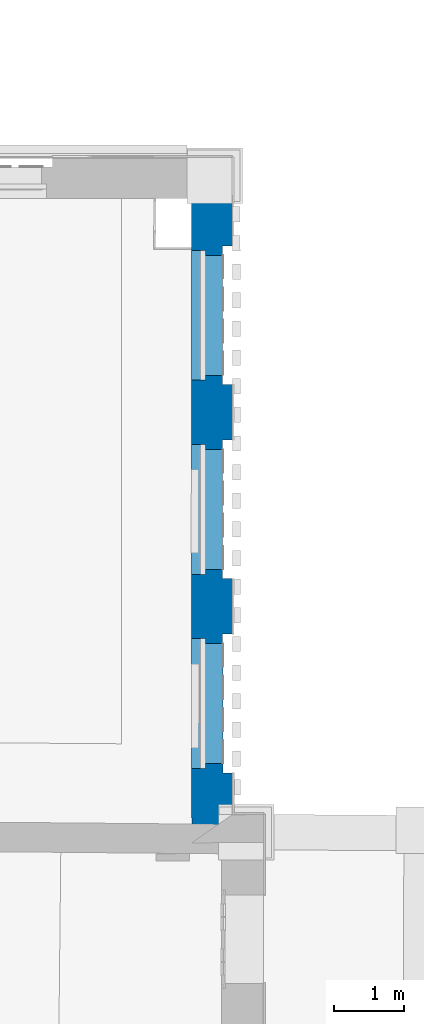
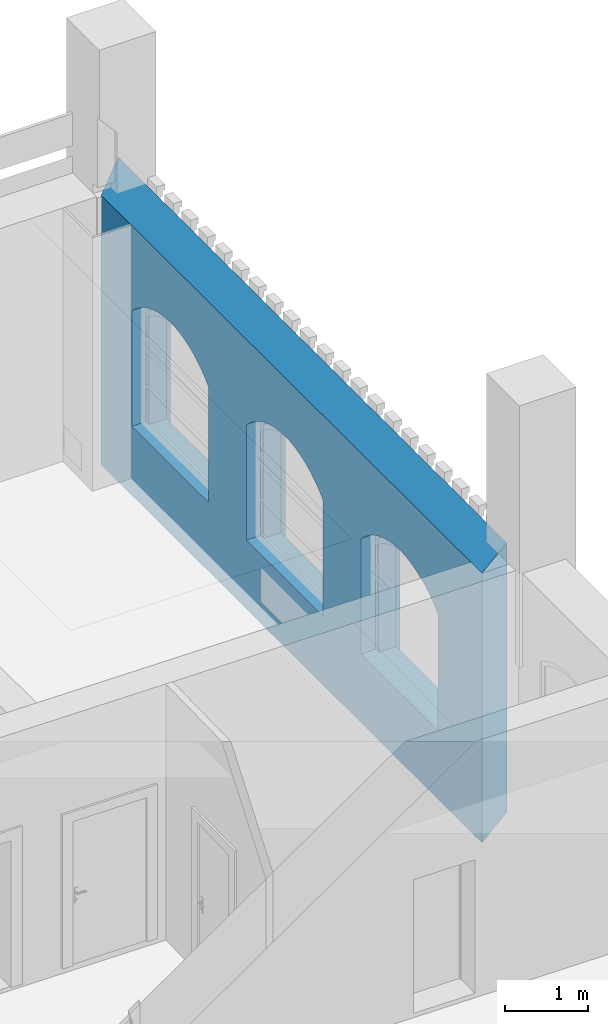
# One storey, part 37 of 90: 1 wall, 6 openings.
"""IFC2X3 building model written with IfcOpenShell, lengths in metres."""

import ifcopenshell
import ifcopenshell.guid

model = None  # the IFC model being written
_history = None  # IfcOwnerHistory: only IFC2X3 demands one
_inside = {}  # id of a spatial element -> (the spatial element, [elements in it])
_under = {}  # id of a project, library or spatial element -> (it, [spatial elements below it])
_declared = {}  # id of a project -> (the project, [libraries it declares])
_typed = {}  # id of a type object -> (the type object, [elements of that type])
_made_of = {}  # id of a material, layer set ... -> (it, [elements and type objects made of it])


def new_model(schema):
    """Start an empty IFC model of exactly this schema.

    Asked for "IFC4X3", IfcOpenShell would pick the latest addendum, in which some entities
    have other attributes; the version numbers below select the first issue.
    IFC2X3 requires an IfcOwnerHistory on every rooted entity: one is made here for all.
    """
    global model, _history
    if schema == "IFC4X3":
        model = ifcopenshell.file(schema_version=(4, 3, 0, 0))
    else:
        model = ifcopenshell.file(schema=schema)
    _inside.clear()
    _under.clear()
    _declared.clear()
    _typed.clear()
    _made_of.clear()
    _history = None
    if model.schema == "IFC2X3":
        org = make("IfcOrganization", Name="unknown")
        user = make(
            "IfcPersonAndOrganization",
            ThePerson=make("IfcPerson", FamilyName="unknown"),
            TheOrganization=org,
        )
        app = make(
            "IfcApplication",
            ApplicationDeveloper=org,
            Version="unknown",
            ApplicationFullName="unknown",
            ApplicationIdentifier="unknown",
        )
        _history = make(
            "IfcOwnerHistory",
            OwningUser=user,
            OwningApplication=app,
            ChangeAction="ADDED",
            CreationDate=0,
        )
    return model


def make(cls, **values):
    """One entity of the class cls with the attributes given. An attribute that is None is left unset."""
    return model.create_entity(
        cls, **{name: value for name, value in values.items() if value is not None}
    )


def entity(cls, *values):
    """Any entity or typed value of the class cls, its attributes in the order of the schema. None: left unset."""
    e = model.create_entity(cls)
    for i, value in enumerate(values):
        if value is not None:
            e[i] = value
    return e


def rooted(cls, **values):
    """An entity with a GlobalId (a new one), such as an element, a storey or a relation."""
    return make(cls, GlobalId=ifcopenshell.guid.new(), OwnerHistory=_history, **values)


def si_unit(unit_type, name, prefix=None):
    """IfcSIUnit, for example si_unit("LENGTHUNIT", "METRE", prefix="MILLI")."""
    return make("IfcSIUnit", UnitType=unit_type, Prefix=prefix, Name=name)


def converted_unit(unit_type, name, factor, base, dimensions=None, offset=None):
    """IfcConversionBasedUnit, such as the inch: factor (a typed value) times the base unit."""
    return make(
        "IfcConversionBasedUnit"
        if offset is None
        else "IfcConversionBasedUnitWithOffset",
        ConversionOffset=offset,
        Dimensions=None
        if dimensions is None
        else entity("IfcDimensionalExponents", *dimensions),
        UnitType=unit_type,
        Name=name,
        ConversionFactor=make(
            "IfcMeasureWithUnit", ValueComponent=factor, UnitComponent=base
        ),
    )


def derived_unit(unit_type, elements):
    """IfcDerivedUnit: a product of units, each with its exponent."""
    return make(
        "IfcDerivedUnit",
        Elements=[
            make("IfcDerivedUnitElement", Unit=unit, Exponent=power)
            for unit, power in elements
        ],
        UnitType=unit_type,
    )


def money_unit(currency):
    """IfcMonetaryUnit."""
    return make("IfcMonetaryUnit", Currency=currency)


def assignment(units):
    """IfcUnitAssignment: the units of a project."""
    return None if units is None else make("IfcUnitAssignment", Units=units)


def point(xyz):
    """IfcCartesianPoint."""
    return None if xyz is None else make("IfcCartesianPoint", Coordinates=xyz)


def direction(xyz):
    """IfcDirection."""
    return None if xyz is None else make("IfcDirection", DirectionRatios=xyz)


def frame(location, z_axis=None, x_axis=None):
    """IfcAxis2Placement3D, a coordinate frame: its origin and axes. An axis left out is left unset."""
    return make(
        "IfcAxis2Placement3D",
        Location=point(location),
        Axis=direction(z_axis),
        RefDirection=direction(x_axis),
    )


def origin_with_axes():
    """The frame at (0, 0, 0) with the z axis (0, 0, 1) and the x axis (1, 0, 0) written out."""
    return frame((0.0, 0.0, 0.0), z_axis=(0.0, 0.0, 1.0), x_axis=(1.0, 0.0, 0.0))


def place(relative_to, where):
    """IfcLocalPlacement: puts the frame where relative to a parent placement (None: the world)."""
    return make(
        "IfcLocalPlacement", PlacementRelTo=relative_to, RelativePlacement=where
    )


def context(
    kind, dimensions, precision=None, world=None, true_north=None, identifier=None
):
    """IfcGeometricRepresentationContext, for example the 3D "Model" context."""
    return make(
        "IfcGeometricRepresentationContext",
        ContextIdentifier=identifier,
        ContextType=kind,
        CoordinateSpaceDimension=dimensions,
        Precision=precision,
        WorldCoordinateSystem=world,
        TrueNorth=true_north,
    )


def subcontext(parent, identifier, kind, view, scale=None):
    """IfcGeometricRepresentationSubContext, for example "Body" below "Model"."""
    return make(
        "IfcGeometricRepresentationSubContext",
        ContextIdentifier=identifier,
        ContextType=kind,
        ParentContext=parent,
        TargetScale=scale,
        TargetView=view,
    )


def project(units=None, contexts=None):
    """IfcProject with its units and contexts."""
    return rooted(
        "IfcProject",
        Name="project",
        RepresentationContexts=contexts,
        UnitsInContext=assignment(units),
    )


def spatial(cls, under=None, at=None, **own):
    """A site, building, storey or space (cls), placed at a placement, below another one or the project."""
    s = rooted(cls, ObjectPlacement=at, **own)
    if under is not None:
        _under.setdefault(under.id(), (under, []))[1].append(s)
    return s


def polyline(points):
    """IfcPolyline through the points."""
    return make("IfcPolyline", Points=[point(p) for p in points])


def outline(outer, holes=None, kind="AREA"):
    """IfcArbitraryClosedProfileDef: a profile drawn as a closed curve; with holes, ...WithVoids."""
    if holes is None:
        return make("IfcArbitraryClosedProfileDef", ProfileType=kind, OuterCurve=outer)
    return make(
        "IfcArbitraryProfileDefWithVoids",
        ProfileType=kind,
        OuterCurve=outer,
        InnerCurves=holes,
    )


def extrude(swept, where, along, depth):
    """IfcExtrudedAreaSolid: the profile swept, set in the frame where, extruded along a direction by depth."""
    return make(
        "IfcExtrudedAreaSolid",
        SweptArea=swept,
        Position=where,
        ExtrudedDirection=direction(along),
        Depth=depth,
    )


def shape(context_of_items, identifier, shape_type, items):
    """IfcShapeRepresentation: the items that make up one representation, for example the "Body"."""
    return make(
        "IfcShapeRepresentation",
        ContextOfItems=context_of_items,
        RepresentationIdentifier=identifier,
        RepresentationType=shape_type,
        Items=items,
    )


def material(Name=None, Category=None):
    """IfcMaterial."""
    return make("IfcMaterial", Name=Name, Category=Category)


def layer(
    of_material, thickness, ventilated=None, Name=None, Category=None, Priority=None
):
    """IfcMaterialLayer: one layer of a wall or slab, of a material (None: an air gap)."""
    return make(
        "IfcMaterialLayer",
        Material=of_material,
        LayerThickness=thickness,
        IsVentilated=ventilated,
        Name=Name,
        Category=Category,
        Priority=Priority,
    )


def layer_set(layers, Name=None):
    """IfcMaterialLayerSet."""
    return make("IfcMaterialLayerSet", MaterialLayers=layers, LayerSetName=Name)


def layer_usage(for_layer_set, set_direction, sense, offset, extent=None):
    """IfcMaterialLayerSetUsage: how a layer set lies in its element."""
    return make(
        "IfcMaterialLayerSetUsage",
        ForLayerSet=for_layer_set,
        LayerSetDirection=set_direction,
        DirectionSense=sense,
        OffsetFromReferenceLine=offset,
        ReferenceExtent=extent,
    )


def made_of(thing, what):
    """Note that an element or type object is made of a material, layer set ...; save() writes the relation."""
    if what is not None:
        _made_of.setdefault(what.id(), (what, []))[1].append(thing)
    return thing


def type_object(cls, material=None, **own):
    """A type object (cls), such as IfcWallType, which elements share."""
    return made_of(rooted(cls, **own), material)


def element(
    cls,
    number,
    at=None,
    inside=None,
    cuts=None,
    type_object=None,
    material=None,
    context=None,
    identifier="Body",
    shape_type=None,
    held_by="IfcProductDefinitionShape",
    body=None,
    shapes=None,
    **own,
):
    """One element of the class cls, such as IfcWall. Its Tag is "e" and its number.

    at: its placement. inside: the storey or other place that contains it. cuts: it is an
    opening in that element (IfcRelVoidsElement). A single representation is given by context,
    identifier, shape_type and body (its items); several are given by shapes. held_by: the class
    of the entity that holds the representations. save() writes the other relations.
    """
    e = rooted(cls, Tag="e%d" % number, ObjectPlacement=at, **own)
    if body is not None:
        shapes = [shape(context, identifier, shape_type, body)]
    if shapes is not None:
        e.Representation = make(held_by, Representations=shapes)
    if inside is not None:
        _inside.setdefault(inside.id(), (inside, []))[1].append(e)
    if cuts is not None:
        rooted(
            "IfcRelVoidsElement", RelatingBuildingElement=cuts, RelatedOpeningElement=e
        )
    if type_object is not None:
        _typed.setdefault(type_object.id(), (type_object, []))[1].append(e)
    return made_of(e, material)


def aggregate(whole, parts):
    """IfcRelAggregates: a whole, such as a stair, and the parts it consists of."""
    return rooted("IfcRelAggregates", RelatingObject=whole, RelatedObjects=parts)


def save(model, path):
    """Write the relations noted so far, then the file.

    IfcRelAggregates (storeys below a building ...), IfcRelContainedInSpatialStructure (elements
    in a storey), IfcRelDefinesByType, IfcRelAssociatesMaterial and IfcRelDeclares: one each for
    every whole, place, type object, material and project.
    """
    for whole, parts in _under.values():
        aggregate(whole, parts)
    for where, things in _inside.values():
        rooted(
            "IfcRelContainedInSpatialStructure",
            RelatedElements=things,
            RelatingStructure=where,
        )
    for kind, things in _typed.values():
        rooted("IfcRelDefinesByType", RelatedObjects=things, RelatingType=kind)
    for what, things in _made_of.values():
        rooted("IfcRelAssociatesMaterial", RelatedObjects=things, RelatingMaterial=what)
    for by, libraries in _declared.values():
        rooted("IfcRelDeclares", RelatingContext=by, RelatedDefinitions=libraries)
    model.write(path)


model = new_model("IFC2X3")

# Units and contexts
model_context = context("Model", 3, precision=1e-05, world=origin_with_axes(), true_north=direction((0.0, 1.0)))
body_context = subcontext(model_context, "Body", "Model", "MODEL_VIEW")
ifc_project = project(units=[si_unit("LENGTHUNIT", "METRE"), si_unit("AREAUNIT", "SQUARE_METRE"), si_unit("VOLUMEUNIT", "CUBIC_METRE"), converted_unit("PLANEANGLEUNIT", "DEGREE", entity("IfcPlaneAngleMeasure", 0.0174532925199), si_unit("PLANEANGLEUNIT", "RADIAN"), dimensions=[0, 0, 0, 0, 0, 0, 0]), money_unit("EUR"), converted_unit("TIMEUNIT", "Year", entity("IfcTimeMeasure", 31556926.0), si_unit("TIMEUNIT", "SECOND"), dimensions=[0, 0, 1, 0, 0, 0, 0]), si_unit("MASSUNIT", "GRAM", prefix="KILO"), si_unit("THERMODYNAMICTEMPERATUREUNIT", "DEGREE_CELSIUS"), si_unit("LUMINOUSINTENSITYUNIT", "LUMEN"), si_unit("ENERGYUNIT", "JOULE", prefix="MEGA"), derived_unit("THERMALCONDUCTANCEUNIT", [(si_unit("POWERUNIT", "WATT"), 1), (si_unit("LENGTHUNIT", "METRE"), -1), (si_unit("THERMODYNAMICTEMPERATUREUNIT", "KELVIN"), -1)]), derived_unit("SPECIFICHEATCAPACITYUNIT", [(si_unit("ENERGYUNIT", "JOULE"), 1), (si_unit("MASSUNIT", "GRAM", prefix="KILO"), -1), (si_unit("THERMODYNAMICTEMPERATUREUNIT", "KELVIN"), -1)]), derived_unit("MASSDENSITYUNIT", [(si_unit("MASSUNIT", "GRAM", prefix="KILO"), 1), (si_unit("VOLUMEUNIT", "CUBIC_METRE"), -1)])], contexts=[model_context])

# Site, building, storey
site_placement = place(None, origin_with_axes())
site = spatial("IfcSite", under=ifc_project, at=site_placement, Name="Gelände", CompositionType="ELEMENT")
building_placement = place(site_placement, origin_with_axes())
building = spatial("IfcBuilding", under=site, at=building_placement, Name="Gebäude", CompositionType="ELEMENT")
storey_placement = place(building_placement, frame((0.0, 0.0, 3.7), z_axis=(0.0, 0.0, 1.0), x_axis=(1.0, 0.0, 0.0)))
storey = spatial("IfcBuildingStorey", under=building, at=storey_placement, Name="1.OBERGESCHOSS", CompositionType="ELEMENT", Elevation=3.7)

# Wall, openings
ifc_material = material(Name="05_ALLGEMEIN - TRAGENDE BAUTEILE")
ifc_layer = layer(ifc_material, 0.58, ventilated="UNKNOWN")
ifc_layer_set = layer_set([ifc_layer], Name="05_ALLGEMEIN - TRAGENDE BAUTEILE 0.58")
ifc_layer_usage = layer_usage(ifc_layer_set, "AXIS2", "NEGATIVE", 0.58)
wall_type = type_object("IfcWallType", Name="05_ALLGEMEIN - TRAGENDE BAUTEILE 580", PredefinedType="ELEMENTEDWALL")
wall_placement = place(storey_placement, frame((31.6770990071, 19.8019123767, -0.1), z_axis=(0.0, 0.0, 1.0), x_axis=(-0.000336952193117, 0.999999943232, 0.0)))
wall = element("IfcWallStandardCase", 1, at=wall_placement, inside=storey, type_object=wall_type, material=ifc_layer_usage, Name="Wand-038", ObjectType="ELEMENTEDWALL", context=body_context, shape_type="SweptSolid", body=[
    extrude(outline(polyline([(0.0, 0.0), (9.36638695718, 0.0), (8.7761534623, 0.58), (-0.402913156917, 0.58), (0.0, 0.0)])), origin_with_axes(), (0.0, 0.0, 1.0), 3.97),
])
opening_1_placement = place(wall_placement, frame((4.34905198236, 0.0, -3.21821433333), z_axis=(0.0, 0.0, 1.0), x_axis=(1.0, 0.0, 0.0)))
element("IfcOpeningElement", 2, at=opening_1_placement, cuts=wall, Name="Fenster-015", ObjectType="Recess", context=body_context, shape_type="SweptSolid", body=[
    extrude(outline(polyline([(-0.989000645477, 0.0), (-0.989000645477, -5.96400000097), (-0.80394028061, -6.12465277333), (-0.593267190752, -6.24984662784), (-0.363693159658, -6.33559306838), (-0.122532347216, -6.37916034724), (0.122532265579, -6.37916034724), (0.363693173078, -6.33559306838), (0.593267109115, -6.24984662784), (0.803940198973, -6.12465277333), (0.989000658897, -5.96400000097), (0.989001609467, -5.96390000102), (0.989000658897, 0.0), (-0.989000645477, 0.0)])), frame((0.0, 0.137560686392, 0.0), z_axis=(0.0, 1.0, 0.0), x_axis=(1.0, 0.0, 0.0)), (0.0, 0.0, -1.0), 0.717560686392),
])
opening_2_placement = place(wall_placement, frame((4.34810984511, 0.0, 1.01607766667), z_axis=(0.0, 0.0, 1.0), x_axis=(1.0, 0.0, 0.0)))
element("IfcOpeningElement", 3, at=opening_2_placement, cuts=wall, Name="Fenster-015", context=body_context, shape_type="SweptSolid", body=[
    extrude(outline(polyline([(-0.855, 0.0), (-0.855, -1.67146886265), (-0.767063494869, -1.75112612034), (-0.671745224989, -1.82178399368), (-0.569962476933, -1.88276251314), (-0.462694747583, -1.93347485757), (-0.350974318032, -1.9734330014), (-0.235876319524, -2.00225241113), (-0.118508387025, -2.01965574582), (0.0, -2.02547552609), (0.118508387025, -2.01965574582), (0.235876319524, -2.00225241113), (0.350974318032, -1.9734330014), (0.462694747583, -1.93347485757), (0.569962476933, -1.88276251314), (0.671745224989, -1.82178399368), (0.767063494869, -1.75112612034), (0.855, -1.67146886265), (0.855, 0.0), (-0.855, 0.0)])), frame((0.0, 0.382213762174, 0.0), z_axis=(0.0, 1.0, 0.0), x_axis=(1.0, 0.0, 0.0)), (0.0, 0.0, -1.0), 0.962213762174),
    extrude(outline(polyline([(0.925, 0.0), (0.925, 1.7), (0.831145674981, 1.78876544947), (0.728819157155, 1.86761481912), (0.619063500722, 1.93574436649), (0.502997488, 1.99245962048), (0.381804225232, 2.03718246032), (0.256719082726, 2.06945700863), (0.129017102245, 2.08895427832), (0.0, 2.09547552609), (-0.129017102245, 2.08895427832), (-0.256719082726, 2.06945700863), (-0.381804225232, 2.03718246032), (-0.502997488, 1.99245962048), (-0.619063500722, 1.93574436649), (-0.728819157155, 1.86761481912), (-0.831145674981, 1.78876544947), (-0.925, 1.7), (-0.925, 0.0), (0.925, 0.0)])), frame((0.0, 0.382213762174, 0.0), z_axis=(0.0, -1.0, 0.0), x_axis=(1.0, 0.0, 0.0)), (0.0, 0.0, -1.0), 0.777786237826),
])
opening_3_placement = place(wall_placement, frame((1.58251483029, 0.0, -3.21821433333), z_axis=(0.0, 0.0, 1.0), x_axis=(1.0, 0.0, 0.0)))
element("IfcOpeningElement", 4, at=opening_3_placement, cuts=wall, Name="Fenster-015", ObjectType="Recess", context=body_context, shape_type="SweptSolid", body=[
    extrude(outline(polyline([(-0.989000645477, 0.0), (-0.989000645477, -5.96400000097), (-0.80394028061, -6.12465277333), (-0.593267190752, -6.24984662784), (-0.363693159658, -6.33559306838), (-0.122532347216, -6.37916034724), (0.122532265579, -6.37916034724), (0.363693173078, -6.33559306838), (0.593267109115, -6.24984662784), (0.803940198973, -6.12465277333), (0.989000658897, -5.96400000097), (0.989001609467, -5.96390000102), (0.989000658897, 0.0), (-0.989000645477, 0.0)])), frame((0.0, 0.137560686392, 0.0), z_axis=(0.0, 1.0, 0.0), x_axis=(1.0, 0.0, 0.0)), (0.0, 0.0, -1.0), 0.717560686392),
])
opening_4_placement = place(wall_placement, frame((1.58157269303, 0.0, 1.01607766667), z_axis=(0.0, 0.0, 1.0), x_axis=(1.0, 0.0, 0.0)))
element("IfcOpeningElement", 5, at=opening_4_placement, cuts=wall, Name="Fenster-015", context=body_context, shape_type="SweptSolid", body=[
    extrude(outline(polyline([(-0.855, 0.0), (-0.855, -1.67146886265), (-0.767063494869, -1.75112612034), (-0.671745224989, -1.82178399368), (-0.569962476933, -1.88276251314), (-0.462694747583, -1.93347485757), (-0.350974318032, -1.9734330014), (-0.235876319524, -2.00225241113), (-0.118508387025, -2.01965574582), (0.0, -2.02547552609), (0.118508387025, -2.01965574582), (0.235876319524, -2.00225241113), (0.350974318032, -1.9734330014), (0.462694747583, -1.93347485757), (0.569962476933, -1.88276251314), (0.671745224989, -1.82178399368), (0.767063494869, -1.75112612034), (0.855, -1.67146886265), (0.855, 0.0), (-0.855, 0.0)])), frame((0.0, 0.382213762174, 0.0), z_axis=(0.0, 1.0, 0.0), x_axis=(1.0, 0.0, 0.0)), (0.0, 0.0, -1.0), 0.962213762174),
    extrude(outline(polyline([(0.925, 0.0), (0.925, 1.7), (0.831145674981, 1.78876544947), (0.728819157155, 1.86761481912), (0.619063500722, 1.93574436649), (0.502997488, 1.99245962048), (0.381804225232, 2.03718246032), (0.256719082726, 2.06945700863), (0.129017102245, 2.08895427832), (0.0, 2.09547552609), (-0.129017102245, 2.08895427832), (-0.256719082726, 2.06945700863), (-0.381804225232, 2.03718246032), (-0.502997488, 1.99245962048), (-0.619063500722, 1.93574436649), (-0.728819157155, 1.86761481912), (-0.831145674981, 1.78876544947), (-0.925, 1.7), (-0.925, 0.0), (0.925, 0.0)])), frame((0.0, 0.382213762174, 0.0), z_axis=(0.0, -1.0, 0.0), x_axis=(1.0, 0.0, 0.0)), (0.0, 0.0, -1.0), 0.777786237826),
])
opening_5_placement = place(wall_placement, frame((7.11401505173, 0.0, -3.21821433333), z_axis=(0.0, 0.0, 1.0), x_axis=(1.0, 0.0, 0.0)))
element("IfcOpeningElement", 6, at=opening_5_placement, cuts=wall, Name="Fenster-015", ObjectType="Recess", context=body_context, shape_type="SweptSolid", body=[
    extrude(outline(polyline([(-0.989000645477, 0.0), (-0.989000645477, -5.96400000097), (-0.80394028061, -6.12465277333), (-0.593267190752, -6.24984662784), (-0.363693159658, -6.33559306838), (-0.122532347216, -6.37916034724), (0.122532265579, -6.37916034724), (0.363693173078, -6.33559306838), (0.593267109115, -6.24984662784), (0.803940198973, -6.12465277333), (0.989000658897, -5.96400000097), (0.989001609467, -5.96390000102), (0.989000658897, 0.0), (-0.989000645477, 0.0)])), frame((0.0, 0.137560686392, 0.0), z_axis=(0.0, 1.0, 0.0), x_axis=(1.0, 0.0, 0.0)), (0.0, 0.0, -1.0), 0.717560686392),
])
opening_6_placement = place(wall_placement, frame((7.11307291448, 0.0, 1.01607766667), z_axis=(0.0, 0.0, 1.0), x_axis=(1.0, 0.0, 0.0)))
element("IfcOpeningElement", 7, at=opening_6_placement, cuts=wall, Name="Fenster-015", context=body_context, shape_type="SweptSolid", body=[
    extrude(outline(polyline([(-0.855, 0.0), (-0.855, -1.67146886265), (-0.767063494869, -1.75112612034), (-0.671745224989, -1.82178399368), (-0.569962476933, -1.88276251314), (-0.462694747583, -1.93347485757), (-0.350974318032, -1.9734330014), (-0.235876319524, -2.00225241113), (-0.118508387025, -2.01965574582), (0.0, -2.02547552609), (0.118508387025, -2.01965574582), (0.235876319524, -2.00225241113), (0.350974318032, -1.9734330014), (0.462694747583, -1.93347485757), (0.569962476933, -1.88276251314), (0.671745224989, -1.82178399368), (0.767063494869, -1.75112612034), (0.855, -1.67146886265), (0.855, 0.0), (-0.855, 0.0)])), frame((0.0, 0.382213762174, 0.0), z_axis=(0.0, 1.0, 0.0), x_axis=(1.0, 0.0, 0.0)), (0.0, 0.0, -1.0), 0.962213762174),
    extrude(outline(polyline([(0.925, 0.0), (0.925, 1.7), (0.831145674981, 1.78876544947), (0.728819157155, 1.86761481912), (0.619063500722, 1.93574436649), (0.502997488, 1.99245962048), (0.381804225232, 2.03718246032), (0.256719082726, 2.06945700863), (0.129017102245, 2.08895427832), (0.0, 2.09547552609), (-0.129017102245, 2.08895427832), (-0.256719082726, 2.06945700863), (-0.381804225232, 2.03718246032), (-0.502997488, 1.99245962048), (-0.619063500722, 1.93574436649), (-0.728819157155, 1.86761481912), (-0.831145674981, 1.78876544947), (-0.925, 1.7), (-0.925, 0.0), (0.925, 0.0)])), frame((0.0, 0.382213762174, 0.0), z_axis=(0.0, -1.0, 0.0), x_axis=(1.0, 0.0, 0.0)), (0.0, 0.0, -1.0), 0.777786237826),
])

save(model, "model.ifc")
